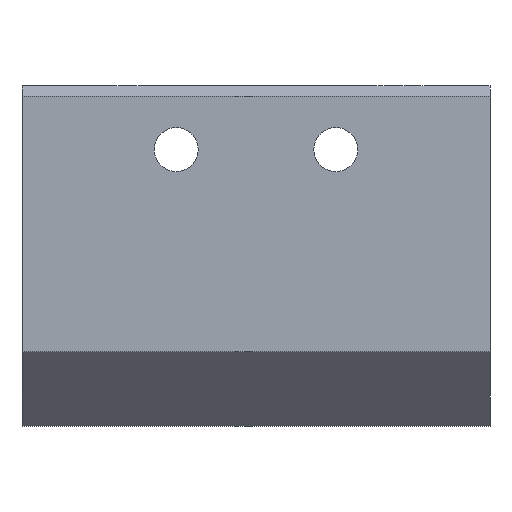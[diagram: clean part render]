
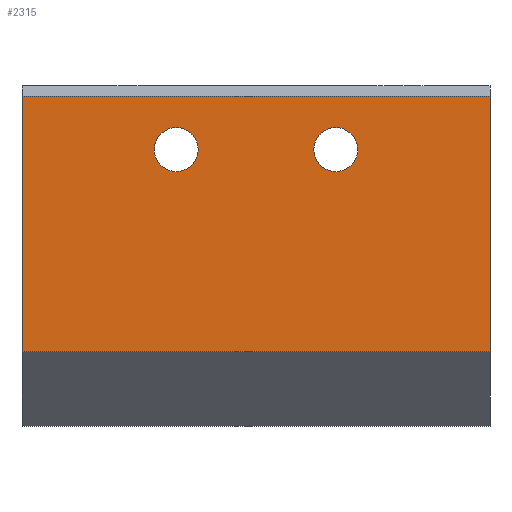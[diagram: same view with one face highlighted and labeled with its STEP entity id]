
A CAD part, front view. The second image highlights one B-rep face of the part: STEP entity #2315.
In plain terms, the highlighted planar face has unit normal (0, -1, 0).
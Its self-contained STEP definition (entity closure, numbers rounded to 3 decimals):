
#1359=CARTESIAN_POINT('',(44.0,-13.,18.0));
#1360=VERTEX_POINT('',#1359);
#1377=CARTESIAN_POINT('',(0.0,-13.,18.0));
#1378=VERTEX_POINT('',#1377);
#1385=CARTESIAN_POINT('',(0.0,-13.,18.0));
#1386=DIRECTION('',(1.0,0.0,0.0));
#1387=VECTOR('',#1386,44.0);
#1388=LINE('',#1385,#1387);
#1389=EDGE_CURVE('',#1378,#1360,#1388,.T.);
#1440=CARTESIAN_POINT('',(0.0,-13.0,-6.));
#1441=VERTEX_POINT('',#1440);
#1448=CARTESIAN_POINT('',(0.0,-13.0,-6.));
#1449=DIRECTION('',(0.0,0.0,1.0));
#1450=VECTOR('',#1449,24.);
#1451=LINE('',#1448,#1450);
#1452=EDGE_CURVE('',#1441,#1378,#1451,.T.);
#1545=CARTESIAN_POINT('',(44.0,-13.0,-6.));
#1546=VERTEX_POINT('',#1545);
#1553=CARTESIAN_POINT('',(44.0,-13.0,-6.));
#1554=DIRECTION('',(-1.0,0.0,0.0));
#1555=VECTOR('',#1554,44.0);
#1556=LINE('',#1553,#1555);
#1557=EDGE_CURVE('',#1546,#1441,#1556,.T.);
#2053=CARTESIAN_POINT('',(31.567,-13.,13.));
#2054=VERTEX_POINT('',#2053);
#2055=CARTESIAN_POINT('',(29.5,-13.,13.));
#2056=DIRECTION('',(0.0,1.0,0.0));
#2057=DIRECTION('',(-1.0,0.0,0.0));
#2058=AXIS2_PLACEMENT_3D('',#2055,#2056,#2057);
#2059=CIRCLE('',#2058,2.067);
#2060=EDGE_CURVE('',#2054,#2054,#2059,.T.);
#2163=CARTESIAN_POINT('',(16.567,-13.,13.));
#2164=VERTEX_POINT('',#2163);
#2165=CARTESIAN_POINT('',(14.5,-13.,13.));
#2166=DIRECTION('',(0.0,1.0,0.0));
#2167=DIRECTION('',(-1.0,0.0,0.0));
#2168=AXIS2_PLACEMENT_3D('',#2165,#2166,#2167);
#2169=CIRCLE('',#2168,2.067);
#2170=EDGE_CURVE('',#2164,#2164,#2169,.T.);
#2293=CARTESIAN_POINT('',(0.0,-13.,-13.));
#2294=DIRECTION('',(0.0,-1.0,0.0));
#2295=DIRECTION('',(0.0,0.0,-1.0));
#2296=AXIS2_PLACEMENT_3D('',#2293,#2294,#2295);
#2297=PLANE('',#2296);
#2298=ORIENTED_EDGE('',*,*,#1389,.F.);
#2299=ORIENTED_EDGE('',*,*,#1452,.F.);
#2300=ORIENTED_EDGE('',*,*,#1557,.F.);
#2301=CARTESIAN_POINT('',(44.0,-13.0,-6.));
#2302=DIRECTION('',(0.0,0.0,1.0));
#2303=VECTOR('',#2302,24.);
#2304=LINE('',#2301,#2303);
#2305=EDGE_CURVE('',#1546,#1360,#2304,.T.);
#2306=ORIENTED_EDGE('',*,*,#2305,.T.);
#2307=EDGE_LOOP('',(#2298,#2299,#2300,#2306));
#2308=FACE_OUTER_BOUND('',#2307,.T.);
#2309=ORIENTED_EDGE('',*,*,#2060,.T.);
#2310=EDGE_LOOP('',(#2309));
#2311=FACE_BOUND('',#2310,.T.);
#2312=ORIENTED_EDGE('',*,*,#2170,.T.);
#2313=EDGE_LOOP('',(#2312));
#2314=FACE_BOUND('',#2313,.T.);
#2315=ADVANCED_FACE('',(#2308,#2311,#2314),#2297,.T.);
